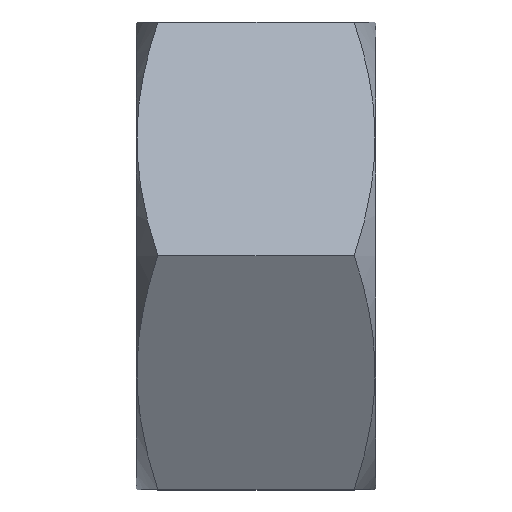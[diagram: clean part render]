
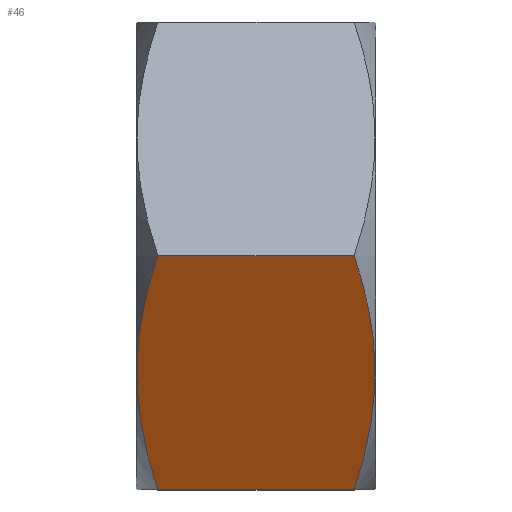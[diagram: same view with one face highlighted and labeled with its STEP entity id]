
A CAD part, top view. The second image highlights one B-rep face of the part: STEP entity #46.
In plain terms, the highlighted planar face has unit normal (0, -0.5, 0.866).
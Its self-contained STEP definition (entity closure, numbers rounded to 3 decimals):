
#46 = ADVANCED_FACE( '', ( #101 ), #102, .F. );
#101 = FACE_OUTER_BOUND( '', #166, .T. );
#102 = PLANE( '', #167 );
#166 = EDGE_LOOP( '', ( #231, #232, #233, #234 ) );
#167 = AXIS2_PLACEMENT_3D( '', #235, #236, #237 );
#231 = ORIENTED_EDGE( '', *, *, #339, .F. );
#232 = ORIENTED_EDGE( '', *, *, #340, .T. );
#233 = ORIENTED_EDGE( '', *, *, #341, .T. );
#234 = ORIENTED_EDGE( '', *, *, #342, .F. );
#235 = CARTESIAN_POINT( '', ( -21., -20.5, 11.836 ) );
#236 = DIRECTION( '', ( 0., 0.5, -0.866 ) );
#237 = DIRECTION( '', ( 0., 0.866, 0.5 ) );
#339 = EDGE_CURVE( '', #387, #388, #389, .T. );
#340 = EDGE_CURVE( '', #387, #390, #391, .T. );
#341 = EDGE_CURVE( '', #390, #392, #393, .T. );
#342 = EDGE_CURVE( '', #388, #392, #394, .T. );
#387 = VERTEX_POINT( '', #451 );
#388 = VERTEX_POINT( '', #452 );
#389 = B_SPLINE_CURVE_WITH_KNOTS( '', 3, ( #453, #454, #455, #456, #457, #458, #459, #460, #461, #462, #463, #464, #465, #466 ), .UNSPECIFIED., .F., .F., ( 4, 2, 2, 2, 2, 2, 4 ), ( 0., 0.006, 0.012, 0.013, 0.015, 0.018, 0.024 ), .UNSPECIFIED. );
#390 = VERTEX_POINT( '', #467 );
#391 = LINE( '', #468, #469 );
#392 = VERTEX_POINT( '', #470 );
#393 = B_SPLINE_CURVE_WITH_KNOTS( '', 3, ( #471, #472, #473, #474, #475, #476, #477, #478, #479, #480, #481, #482, #483, #484 ), .UNSPECIFIED., .F., .F., ( 4, 2, 2, 2, 2, 2, 4 ), ( 0., 0.006, 0.012, 0.013, 0.015, 0.018, 0.024 ), .UNSPECIFIED. );
#394 = LINE( '', #485, #486 );
#451 = CARTESIAN_POINT( '', ( -19.111, -20.5, 11.836 ) );
#452 = CARTESIAN_POINT( '', ( -19.111, 0., 23.671 ) );
#453 = CARTESIAN_POINT( '', ( -19.111, -20.5, 11.836 ) );
#454 = CARTESIAN_POINT( '', ( -19.669, -18.826, 12.802 ) );
#455 = CARTESIAN_POINT( '', ( -20.129, -17.141, 13.775 ) );
#456 = CARTESIAN_POINT( '', ( -20.766, -13.734, 15.742 ) );
#457 = CARTESIAN_POINT( '', ( -20.941, -12.012, 16.736 ) );
#458 = CARTESIAN_POINT( '', ( -20.943, -9.834, 17.994 ) );
#459 = CARTESIAN_POINT( '', ( -20.932, -9.396, 18.247 ) );
#460 = CARTESIAN_POINT( '', ( -20.89, -8.524, 18.75 ) );
#461 = CARTESIAN_POINT( '', ( -20.858, -8.09, 19.001 ) );
#462 = CARTESIAN_POINT( '', ( -20.733, -6.791, 19.751 ) );
#463 = CARTESIAN_POINT( '', ( -20.609, -5.931, 20.247 ) );
#464 = CARTESIAN_POINT( '', ( -20.131, -3.365, 21.728 ) );
#465 = CARTESIAN_POINT( '', ( -19.67, -1.676, 22.704 ) );
#466 = CARTESIAN_POINT( '', ( -19.111, 0., 23.671 ) );
#467 = CARTESIAN_POINT( '', ( -1.889, -20.5, 11.836 ) );
#468 = CARTESIAN_POINT( '', ( -21., -20.5, 11.836 ) );
#469 = VECTOR( '', #678, 1000. );
#470 = CARTESIAN_POINT( '', ( -1.889, 0., 23.671 ) );
#471 = CARTESIAN_POINT( '', ( -1.889, -20.5, 11.836 ) );
#472 = CARTESIAN_POINT( '', ( -1.331, -18.826, 12.802 ) );
#473 = CARTESIAN_POINT( '', ( -0.871, -17.141, 13.775 ) );
#474 = CARTESIAN_POINT( '', ( -0.234, -13.734, 15.742 ) );
#475 = CARTESIAN_POINT( '', ( -0.059, -12.012, 16.736 ) );
#476 = CARTESIAN_POINT( '', ( -0.057, -9.834, 17.994 ) );
#477 = CARTESIAN_POINT( '', ( -0.068, -9.396, 18.247 ) );
#478 = CARTESIAN_POINT( '', ( -0.11, -8.524, 18.75 ) );
#479 = CARTESIAN_POINT( '', ( -0.142, -8.09, 19.001 ) );
#480 = CARTESIAN_POINT( '', ( -0.267, -6.791, 19.751 ) );
#481 = CARTESIAN_POINT( '', ( -0.391, -5.931, 20.247 ) );
#482 = CARTESIAN_POINT( '', ( -0.869, -3.365, 21.728 ) );
#483 = CARTESIAN_POINT( '', ( -1.33, -1.676, 22.704 ) );
#484 = CARTESIAN_POINT( '', ( -1.889, 0., 23.671 ) );
#485 = CARTESIAN_POINT( '', ( -21., 0., 23.671 ) );
#486 = VECTOR( '', #679, 1000. );
#678 = DIRECTION( '', ( 1., 0., 0. ) );
#679 = DIRECTION( '', ( 1., 0., 0. ) );
